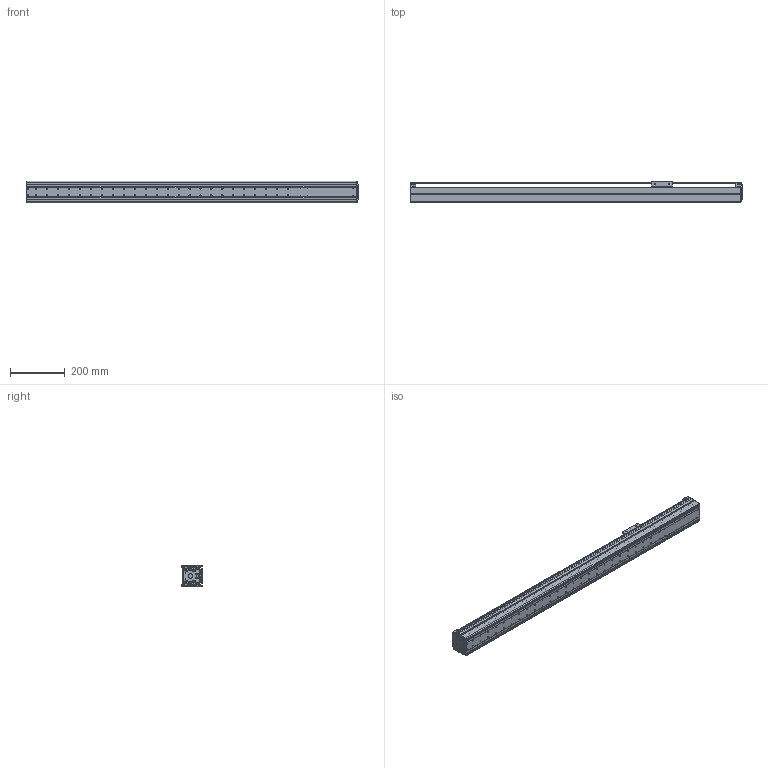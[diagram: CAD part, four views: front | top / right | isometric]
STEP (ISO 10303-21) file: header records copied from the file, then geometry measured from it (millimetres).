
FILE_DESCRIPTION((''),'2;1');
FILE_NAME('BE10E-ST-S_B-85_IGS_PRT','2017-06-17T',(' '),(''),'PRO/ENGINEER BY PARAMETRIC TECHNOLOGY CORPORATION, 2015030','PRO/ENGINEER BY PARAMETRIC TECHNOLOGY CORPORATION, 2015030','');
FILE_SCHEMA(('CONFIG_CONTROL_DESIGN'));
Length unit declared in the file: millimetre
Products named in the file (1): BE10E-ST-S_B-85_IGS_PRT
Bounding box: 1210 x 75 x 78 mm (x, y, z)
Volume: 1231944.5 mm3; surface area: 903192.2 mm2
Topology: 4 solids, 91 shells, 1243 faces, 3345 edges, 2186 vertices
Faces by surface type: cylinder 646, plane 444, torus 64, sphere 42, cone 38, bspline 9
Entity records: 40494 total; most frequent: CARTESIAN_POINT 8471, DIRECTION 6958, ORIENTED_EDGE 6300, EDGE_CURVE 3321, AXIS2_PLACEMENT_3D 2658, VERTEX_POINT 2186, VECTOR 1642, LINE 1642
